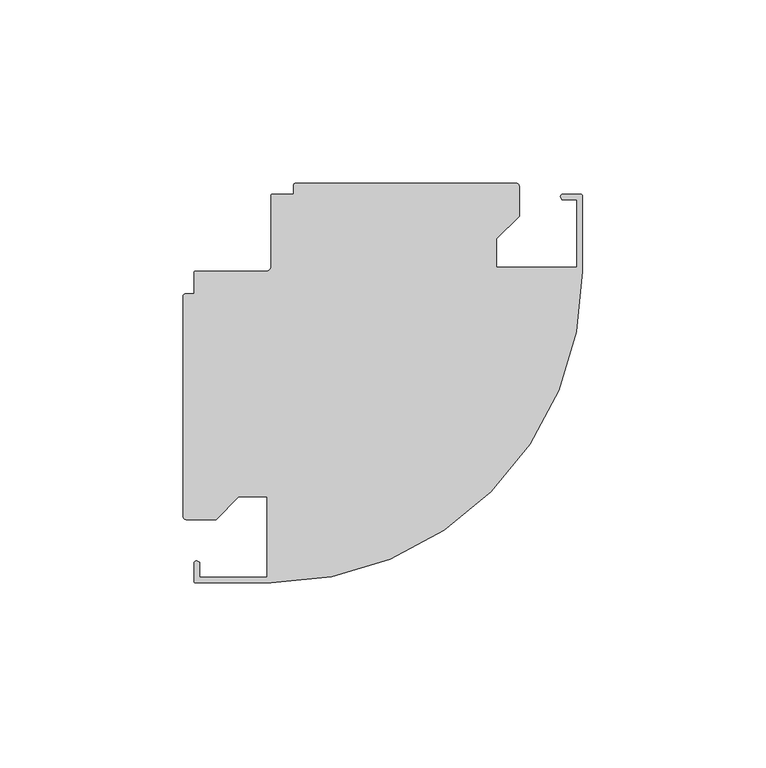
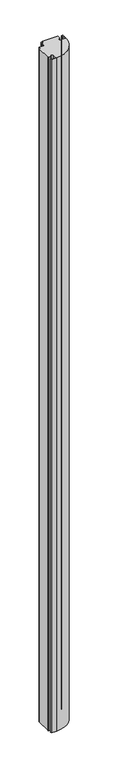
"""IFC4 building model written with IfcOpenShell, lengths in millimetres: member geometry, Прямоугольный импост : AMG-1-Профиль 85Х85 Угловой 2 стороны Верт Л."""

from ifc_helpers import new_model, si_unit, point, frame, frame_2d, origin, place, context, project, spatial, polyline, circle_curve, trimmed, segment, composite_curve, outline, extrude, source, transform, mapped, element, save


def member_6870855c(model_context):
    return source(origin(), model_context, "Body", "SweptSolid", [
        extrude(outline(composite_curve([segment(trimmed(circle_curve(frame_2d((-105.2, -36.8999999)), 0.8), [point((-105.9953124, -36.8135237))], [point((-105.2, -36.0999999))], False, "CARTESIAN"), True, "CONTINUOUS"), segment(polyline([(-105.2, -36.0999999), (-104.5, -36.4566677), (-104.5, -40.5999999), (-86.0, -40.5999999), (-86.0, -18.6999999), (-93.85, -18.6999999), (-100.0, -24.8499999), (-108.0953124, -24.8499999)]), True, "CONTINUOUS"), segment(trimmed(circle_curve(frame_2d((-108.0953124, -24.0499999)), 0.8), [point((-108.0953124, -24.8499999))], [point((-108.8953124, -24.0499999))], False, "CARTESIAN"), True, "CONTINUOUS"), segment(polyline([(-108.8953124, -24.0499999), (-108.8953124, 36.1500001)]), True, "CONTINUOUS"), segment(trimmed(circle_curve(frame_2d((-108.3953124, 36.1500001)), 0.5), [point((-108.8953124, 36.1500001))], [point((-108.3953124, 36.6500001))], False, "CARTESIAN"), True, "CONTINUOUS"), segment(polyline([(-108.3953124, 36.6500001), (-105.9953124, 36.6500001), (-105.9953124, 42.331695)]), True, "CONTINUOUS"), segment(trimmed(circle_curve(frame_2d((-105.5, 42.4000001)), 0.5), [point((-105.9953124, 42.331695))], [point((-105.5, 42.9000001))], False, "CARTESIAN"), True, "CONTINUOUS"), segment(polyline([(-105.5, 42.9000001), (-86.0, 42.9000001)]), True, "CONTINUOUS"), segment(trimmed(circle_curve(frame_2d((-86.0, 43.9000001)), 1.0), [point((-86.0, 42.9000001))], [point((-85.0, 43.9000001))], True, "CARTESIAN"), True, "CONTINUOUS"), segment(polyline([(-85.0, 43.9000001), (-85.0, 63.4000001)]), True, "CONTINUOUS"), segment(trimmed(circle_curve(frame_2d((-84.5, 63.4000001)), 0.5), [point((-85.0, 63.4000001))], [point((-84.5, 63.9000001))], False, "CARTESIAN"), True, "CONTINUOUS"), segment(polyline([(-84.5, 63.9000001), (-78.75, 63.9000001), (-78.75, 66.3000001)]), True, "CONTINUOUS"), segment(trimmed(circle_curve(frame_2d((-78.25, 66.3000001)), 0.5), [point((-78.75, 66.3000001))], [point((-78.25, 66.8000001))], False, "CARTESIAN"), True, "CONTINUOUS"), segment(polyline([(-78.25, 66.8000001), (-18.05, 66.8000001)]), True, "CONTINUOUS"), segment(trimmed(circle_curve(frame_2d((-18.05, 66.0000001)), 0.8), [point((-18.05, 66.8000001))], [point((-17.25, 66.0000001))], False, "CARTESIAN"), True, "CONTINUOUS"), segment(polyline([(-17.25, 66.0000001), (-17.25, 57.9046877), (-23.4, 51.7546877), (-23.4, 43.9046877), (-1.5, 43.9046877), (-1.5, 62.4046877), (-5.6433322, 62.4046877), (-6.0, 63.1046877)]), True, "CONTINUOUS"), segment(trimmed(circle_curve(frame_2d((-5.2, 63.1046877)), 0.8), [point((-6.0, 63.1046877))], [point((-5.2864762, 63.9000001))], False, "CARTESIAN"), True, "CONTINUOUS"), segment(polyline([(-5.2864762, 63.9000001), (-0.5, 63.9000001)]), True, "CONTINUOUS"), segment(trimmed(circle_curve(frame_2d((-0.5, 63.4000001)), 0.5), [point((-0.5, 63.9000001))], [point((0.0, 63.4000001))], False, "CARTESIAN"), True, "CONTINUOUS"), segment(polyline([(0.0, 63.4000001), (0.0, 42.9000001)]), True, "CONTINUOUS"), segment(trimmed(circle_curve(frame_2d((-85.0, 42.9000001)), 85.0), [point((0.0, 42.9000001))], [point((-85.0, -42.0999999))], False, "CARTESIAN"), True, "CONTINUOUS"), segment(polyline([(-85.0, -42.0999999), (-105.4953124, -42.0999999)]), True, "CONTINUOUS"), segment(trimmed(circle_curve(frame_2d((-105.4953124, -41.5999999)), 0.5), [point((-105.4953124, -42.0999999))], [point((-105.9953124, -41.5999999))], False, "CARTESIAN"), True, "CONTINUOUS"), segment(polyline([(-105.9953124, -41.5999999), (-105.9953124, -36.8135237)]), True, "CONTINUOUS")], self_intersect=False)), frame((0.0, 0.0, -2800.0), z_axis=(0.0, 0.0, 1.0), x_axis=(1.0, 0.0, 0.0)), (0.0, 0.0, 1.0), 2800.0),
    ])


if __name__ == "__main__":
    model = new_model("IFC4")
    model_context = context("Model", 3, world=origin())
    ifc_project = project(units=[si_unit("LENGTHUNIT", "METRE", prefix="MILLI")], contexts=[model_context])
    site = spatial("IfcSite", under=ifc_project)
    building = spatial("IfcBuilding", under=site)
    placement = place(None, origin())
    member_shape = member_6870855c(model_context)
    element("IfcMember", 1, ObjectType="Прямоугольный импост : AMG-1-Профиль 85Х85 Угловой 2 стороны Верт Л", at=placement, inside=building, context=model_context, shape_type="MappedRepresentation", body=[
        mapped(member_shape, transform((0.0, 0.0, 0.0), x_axis=(1.0, 0.0, 0.0), y_axis=(0.0, 1.0, 0.0), z_axis=(0.0, 0.0, 1.0))),
    ])
    save(model, "model.ifc")
